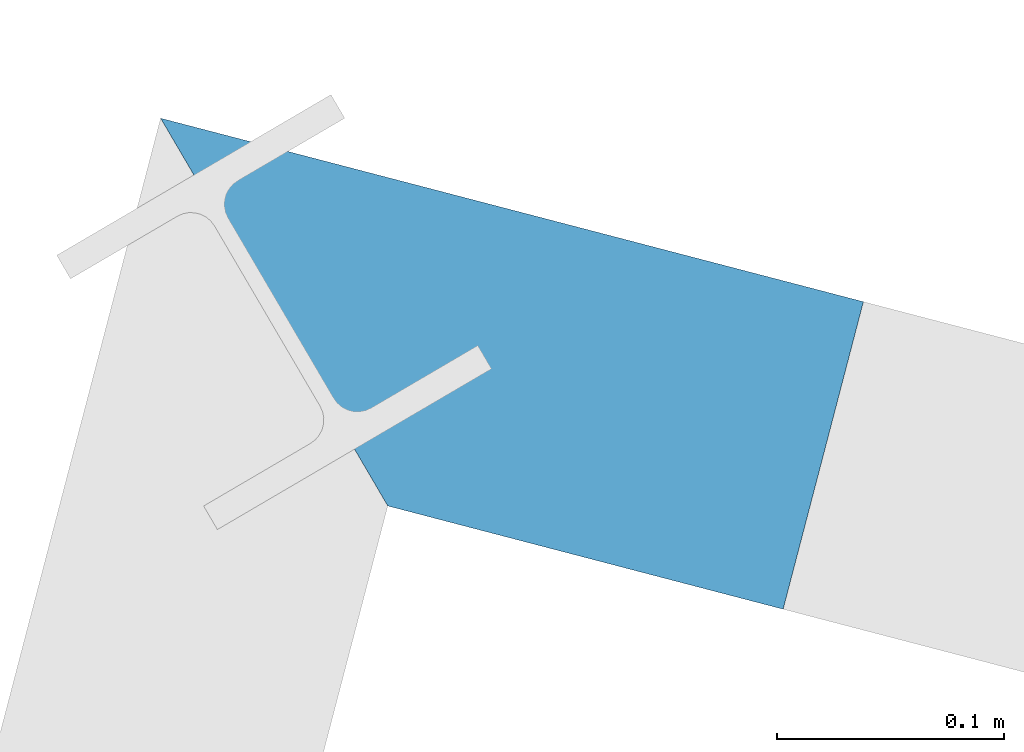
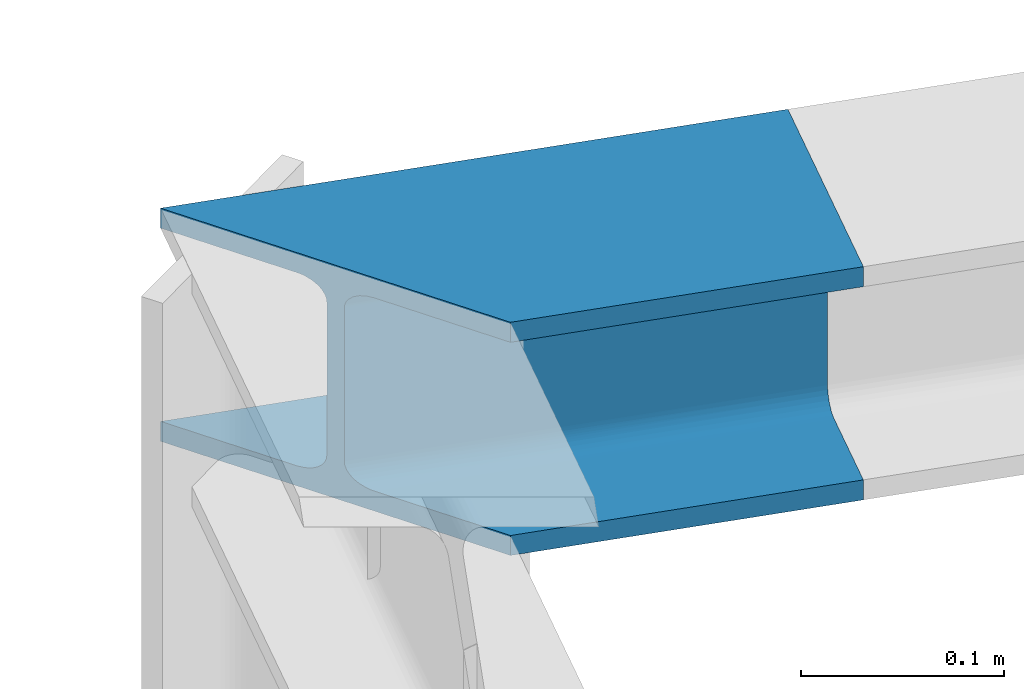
# One storey, part 133 of 169: 1 discrete accessory, 1 element without a shape of its own.
"""IFC2X3 building model written with IfcOpenShell, lengths in millimetres."""

from ifc_helpers import new_model, si_unit, frame, origin_with_axes, origin_2d_with_axis, place, context, subcontext, project, spatial, i_section, extrude, clip, halfspace, material, type_object, element, aggregate, save


model = new_model("IFC2X3")

# Units and contexts
model_context = context("Model", 3, precision=1e-05, world=origin_with_axes())
body_context = subcontext(model_context, "Body", "Model", "MODEL_VIEW")
ifc_project = project(units=[si_unit("LENGTHUNIT", "METRE", prefix="MILLI"), si_unit("AREAUNIT", "SQUARE_METRE"), si_unit("VOLUMEUNIT", "CUBIC_METRE"), si_unit("MASSUNIT", "GRAM", prefix="KILO"), si_unit("TIMEUNIT", "SECOND"), si_unit("PLANEANGLEUNIT", "RADIAN"), si_unit("SOLIDANGLEUNIT", "STERADIAN"), si_unit("THERMODYNAMICTEMPERATUREUNIT", "DEGREE_CELSIUS"), si_unit("LUMINOUSINTENSITYUNIT", "LUMEN")], contexts=[model_context])

# Site, building, storey
site_placement = place(None, origin_with_axes())
site = spatial("IfcSite", under=ifc_project, at=site_placement, Name="Undefined", CompositionType="ELEMENT")
building_placement = place(site_placement, origin_with_axes())
building = spatial("IfcBuilding", under=site, at=building_placement, Name="Undefined", CompositionType="ELEMENT")
storey_placement = place(building_placement, origin_with_axes())
storey = spatial("IfcBuildingStorey", under=building, at=storey_placement, Name="Undefined", CompositionType="ELEMENT", Elevation=0.0)

# Assembly, discrete accessory
assembly_placement = place(storey_placement, origin_with_axes())
assembly = element("IfcElementAssembly", 1, at=assembly_placement, inside=storey, Name="Steel Assembly", AssemblyPlace="NOTDEFINED", PredefinedType="RIGID_FRAME")
ifc_material = material(Name="STEEL/S355")
discrete_accessory_type = type_object("IfcDiscreteAccessoryType", Name="BEAM")
discrete_accessory_placement = place(assembly_placement, frame((19388.4915823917, 3782.97272725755, 13470.4171322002), z_axis=(-2.54700353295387e-10, 0.0, -1.0), x_axis=(0.967563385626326, -0.252628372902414, 0.0)))
discrete_accessory = element("IfcDiscreteAccessory", 2, at=discrete_accessory_placement, type_object=discrete_accessory_type, material=ifc_material, Name="BEAM", ObjectType="HEB140", context=body_context, shape_type="Clipping", body=[
    clip(extrude(i_section(OverallWidth=140.0, OverallDepth=140.0, WebThickness=7.0, FlangeThickness=12.0, FilletRadius=12.0, at=origin_2d_with_axis()), frame((250.000483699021, -7.21500577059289e-15, 1.81898940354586e-12), z_axis=(-1.0, -3.46944695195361e-18, -1.38777878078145e-17), x_axis=(1.73472347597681e-18, -1.0, 0.0)), (0.0, 0.0, 1.0), 355.26), halfspace(frame((-70.0000239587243, -69.9999999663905, 2.42798705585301e-08), z_axis=(-0.707106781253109, 0.707106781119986, 1.80100347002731e-10), x_axis=(-2.54700353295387e-10, 0.0, -1.0)), False)),
])
aggregate(assembly, [discrete_accessory])

save(model, "model.ifc")
